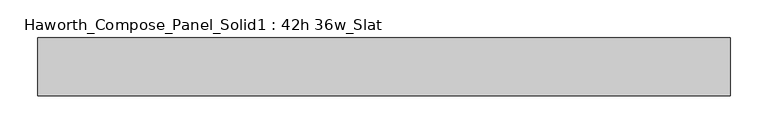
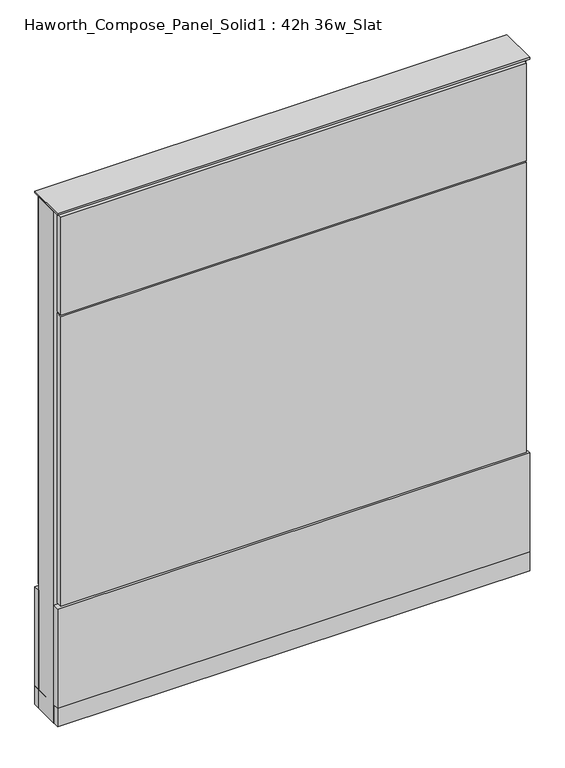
"""IFC4 building model written with IfcOpenShell, lengths in millimetres: furniture geometry, Haworth_Compose_Panel_Solid1 : 42h 36w_Slat."""

from ifc_helpers import new_model, si_unit, point, frame, frame_2d, origin, origin_with_axes, place, context, project, spatial, polyline, circle_curve, trimmed, segment, composite_curve, outline, extrude, source, transform, mapped, element, save


def haworth_compose_panel_solid1_42h_36w_slat_0916da06(model_context):
    return source(origin(), model_context, "Body", "SweptSolid", [
        extrude(outline(composite_curve([segment(trimmed(circle_curve(frame_2d((-378.5597098, 0.0)), 12.7), [point((-391.2597098, 0.0))], [point((-365.8597098, 0.0))], False, "CARTESIAN"), True, "CONTINUOUS"), segment(trimmed(circle_curve(frame_2d((-378.5597098, 0.0)), 12.7), [point((-365.8597098, 0.0))], [point((-391.2597098, 0.0))], False, "CARTESIAN"), True, "CONTINUOUS")], self_intersect=False)), origin_with_axes(), (0.0, 0.0, 1.0), 12.7),
        extrude(outline(composite_curve([segment(trimmed(circle_curve(frame_2d((383.4402902, 0.0)), 12.7), [point((370.7402902, 0.0))], [point((396.1402902, 0.0))], False, "CARTESIAN"), True, "CONTINUOUS"), segment(trimmed(circle_curve(frame_2d((383.4402902, 0.0)), 12.7), [point((396.1402902, 0.0))], [point((370.7402902, 0.0))], False, "CARTESIAN"), True, "CONTINUOUS")], self_intersect=False)), origin_with_axes(), (0.0, 0.0, 1.0), 12.7),
        extrude(outline(polyline([(453.2902902, -38.1), (-448.4097098, -38.1), (-448.4097098, -25.4), (453.2902902, -25.4), (453.2902902, -38.1)])), frame((0.0, 0.0, 854.075), z_axis=(0.0, 0.0, 1.0), x_axis=(1.0, 0.0, 0.0)), (0.0, 0.0, 1.0), 200.025),
        extrude(outline(polyline([(453.2902902, -38.1), (-448.4097098, -38.1), (-448.4097098, -25.4), (453.2902902, -25.4), (453.2902902, -38.1)])), frame((0.0, 0.0, 257.175), z_axis=(0.0, 0.0, 1.0), x_axis=(1.0, 0.0, 0.0)), (0.0, 0.0, 1.0), 593.725),
        extrude(outline(polyline([(459.6402902, -38.1), (-454.7597098, -38.1), (-454.7597098, -25.4), (459.6402902, -25.4), (459.6402902, -38.1)])), frame((0.0, 0.0, 50.8), z_axis=(0.0, 0.0, 1.0), x_axis=(1.0, 0.0, 0.0)), (0.0, 0.0, 1.0), 203.2),
        extrude(outline(polyline([(459.6402902, 38.1), (459.6402902, 25.4), (-454.7597098, 25.4), (-454.7597098, 38.1), (459.6402902, 38.1)])), frame((0.0, 0.0, 50.8), z_axis=(0.0, 0.0, 1.0), x_axis=(1.0, 0.0, 0.0)), (0.0, 0.0, 1.0), 203.2),
        extrude(outline(polyline([(453.2902902, 38.1), (453.2902902, 25.4), (-448.4097098, 25.4), (-448.4097098, 38.1), (453.2902902, 38.1)])), frame((0.0, 0.0, 257.175), z_axis=(0.0, 0.0, 1.0), x_axis=(1.0, 0.0, 0.0)), (0.0, 0.0, 1.0), 796.925),
        extrude(outline(polyline([(459.6402902, -25.4), (-454.7597098, -25.4), (-454.7597098, 25.4), (459.6402902, 25.4), (459.6402902, -25.4)])), frame((0.0, 0.0, 12.7), z_axis=(0.0, 0.0, 1.0), x_axis=(1.0, 0.0, 0.0)), (0.0, 0.0, 1.0), 1047.75),
        extrude(outline(polyline([(-454.7597098, 38.1), (459.6402902, 38.1), (459.6402902, -38.1), (-454.7597098, -38.1), (-454.7597098, 38.1)])), frame((0.0, 0.0, 12.7), z_axis=(0.0, 0.0, 1.0), x_axis=(1.0, 0.0, 0.0)), (0.0, 0.0, 1.0), 38.1),
        extrude(outline(polyline([(-454.7597098, 38.1), (459.6402902, 38.1), (459.6402902, -38.1), (-454.7597098, -38.1), (-454.7597098, 38.1)])), frame((0.0, 0.0, 1060.45), z_axis=(0.0, 0.0, 1.0), x_axis=(1.0, 0.0, 0.0)), (0.0, 0.0, 1.0), 3.175),
    ])


if __name__ == "__main__":
    model = new_model("IFC4")
    model_context = context("Model", 3, world=origin())
    ifc_project = project(units=[si_unit("LENGTHUNIT", "METRE", prefix="MILLI")], contexts=[model_context])
    site = spatial("IfcSite", under=ifc_project)
    building = spatial("IfcBuilding", under=site)
    placement = place(None, origin())
    haworth_compose_panel_solid1_42h_36w_slat_shape = haworth_compose_panel_solid1_42h_36w_slat_0916da06(model_context)
    element("IfcFurniture", 1, ObjectType="Haworth_Compose_Panel_Solid1 : 42h 36w_Slat", at=placement, inside=building, context=model_context, shape_type="MappedRepresentation", body=[
        mapped(haworth_compose_panel_solid1_42h_36w_slat_shape, transform((0.0, 0.0, 0.0), x_axis=(1.0, 0.0, 0.0), y_axis=(0.0, 1.0, 0.0), z_axis=(0.0, 0.0, 1.0))),
    ])
    save(model, "model.ifc")
